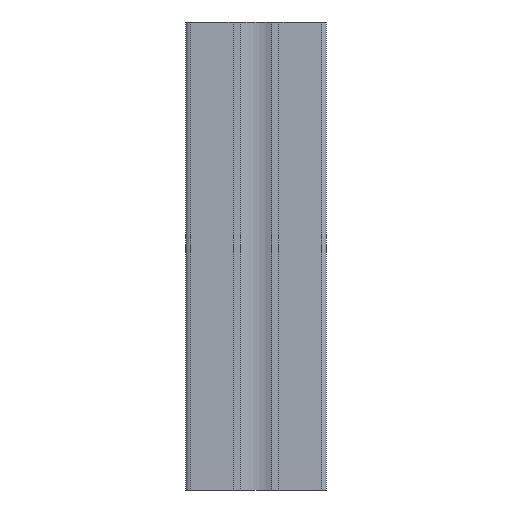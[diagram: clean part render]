
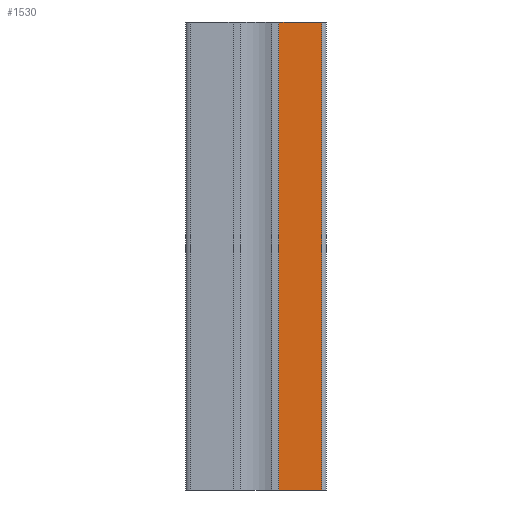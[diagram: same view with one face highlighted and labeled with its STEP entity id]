
A CAD part, left-side view. The second image highlights one B-rep face of the part: STEP entity #1530.
In plain terms, the highlighted planar face has unit normal (-1, 0, 0).
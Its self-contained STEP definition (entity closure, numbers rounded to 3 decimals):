
#48=LINE('',#2254,#232);
#49=LINE('',#2257,#233);
#50=LINE('',#2259,#234);
#51=LINE('',#2260,#235);
#232=VECTOR('',#1836,100.);
#233=VECTOR('',#1839,9.1);
#234=VECTOR('',#1840,9.1);
#235=VECTOR('',#1841,100.);
#391=PLANE('',#1636);
#476=FACE_OUTER_BOUND('',#558,.T.);
#558=EDGE_LOOP('',(#1117,#1118,#1119,#1120));
#705=VERTEX_POINT('',#2247);
#708=VERTEX_POINT('',#2252);
#709=VERTEX_POINT('',#2256);
#710=VERTEX_POINT('',#2258);
#876=EDGE_CURVE('',#705,#708,#48,.T.);
#877=EDGE_CURVE('',#709,#705,#49,.T.);
#878=EDGE_CURVE('',#710,#708,#50,.T.);
#879=EDGE_CURVE('',#709,#710,#51,.T.);
#1117=ORIENTED_EDGE('',*,*,#877,.T.);
#1118=ORIENTED_EDGE('',*,*,#876,.T.);
#1119=ORIENTED_EDGE('',*,*,#878,.F.);
#1120=ORIENTED_EDGE('',*,*,#879,.F.);
#1530=ADVANCED_FACE('',(#476),#391,.T.);
#1636=AXIS2_PLACEMENT_3D('',#2255,#1837,#1838);
#1836=DIRECTION('',(0.,0.,1.));
#1837=DIRECTION('center_axis',(-1.,0.,0.));
#1838=DIRECTION('ref_axis',(0.,-1.,0.));
#1839=DIRECTION('',(0.,-1.,0.));
#1840=DIRECTION('',(0.,-1.,0.));
#1841=DIRECTION('',(0.,0.,1.));
#2247=CARTESIAN_POINT('',(-14.917,-13.985,0.));
#2252=CARTESIAN_POINT('',(-14.917,-13.985,100.));
#2254=CARTESIAN_POINT('',(-14.917,-13.985,0.));
#2255=CARTESIAN_POINT('Origin',(-14.917,-4.885,0.));
#2256=CARTESIAN_POINT('',(-14.917,-4.885,0.));
#2257=CARTESIAN_POINT('',(-14.917,-4.885,0.));
#2258=CARTESIAN_POINT('',(-14.917,-4.885,100.));
#2259=CARTESIAN_POINT('',(-14.917,-4.885,100.));
#2260=CARTESIAN_POINT('',(-14.917,-4.885,0.));
